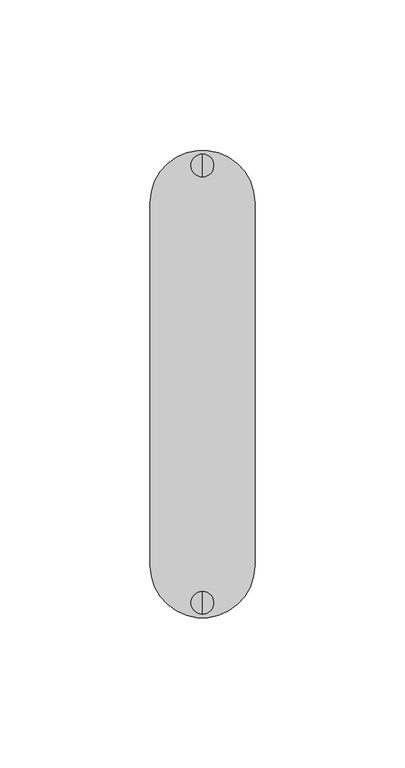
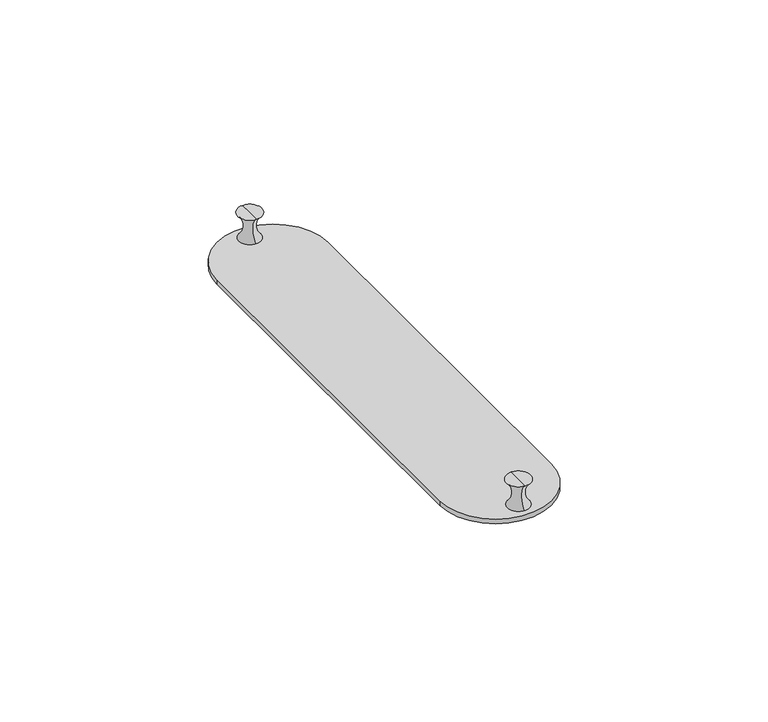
"""IFC4 building model written with IfcOpenShell, lengths in millimetres: electric appliance geometry, Adapter_Panel-Fiber-Corning-LANScape-CCH : 6 F, LC Duplex, multimode (OM1)."""

from ifc_helpers import new_model, si_unit, point, frame, frame_2d, origin, origin_with_axes, place, context, project, spatial, polyline, circle_curve, ellipse_curve, trimmed, segment, composite_curve, outline, extrude, source, transform, mapped, element, save
from ifc_brep_helpers import plane_surface, revolved_surface, advanced_brep


def electric_appliance_42aa6d9b(model_context):
    return source(origin(), model_context, "Body", "SolidModel", [
        extrude(outline(composite_curve([segment(polyline([(17.399, 60.325), (17.399, -60.325)]), True, "CONTINUOUS"), segment(trimmed(circle_curve(frame_2d((0.0, -60.325)), 17.399), [point((17.399, -60.325))], [point((-17.399, -60.325))], False, "CARTESIAN"), True, "CONTINUOUS"), segment(polyline([(-17.399, -60.325), (-17.399, 60.325)]), True, "CONTINUOUS"), segment(trimmed(circle_curve(frame_2d((0.0, 60.325)), 17.399), [point((-17.399, 60.325))], [point((17.399, 60.325))], False, "CARTESIAN"), True, "CONTINUOUS")], self_intersect=False)), origin_with_axes(), (0.0, 0.0, 1.0), 1.524),
        advanced_brep(
        [(0.0, 72.7075, 1.524), (0.0, 76.4763777, 1.524), (0.0, 68.9386223, 1.524), (0.0, 68.9386223, 10.1151821), (0.0, 76.4763777, 10.1151821), (0.0, 72.7075, 10.1151821)],
        [
            (0, 1),
            (1, 2, circle_curve(frame((0.0, 72.7075, 1.524), z_axis=(0.0, 0.0, -1.0), x_axis=(0.0, 1.0, 0.0)), 3.7688777)),
            (2, 0),
            (2, 1, circle_curve(frame((0.0, 72.7075, 1.524), z_axis=(0.0, 0.0, -1.0), x_axis=(0.0, 1.0, 0.0)), 3.7688777)),
            (3, 4, circle_curve(frame((0.0, 72.7075, 10.1151821), z_axis=(0.0, 0.0, 1.0), x_axis=(0.0, 1.0, 0.0)), 3.7688777)),
            (4, 5),
            (5, 3),
            (4, 3, circle_curve(frame((0.0, 72.7075, 10.1151821), z_axis=(0.0, 0.0, 1.0), x_axis=(0.0, 1.0, 0.0)), 3.7688777)),
            (1, 4, circle_curve(frame((0.0, 80.0729942, 5.8195911), z_axis=(-1.0, 0.0, 0.0), x_axis=(0.0, -1.0, 0.0)), 5.6024774)),
            (3, 2, circle_curve(frame((0.0, 65.3420058, 5.8195911), z_axis=(-1.0, 0.0, 0.0), x_axis=(0.0, 1.0, 0.0)), 5.6024774)),
        ],
        [
            plane_surface(frame((0.0, 72.7075, 1.524), z_axis=(0.0, 0.0, -1.0), x_axis=(0.0, 1.0, 0.0))),
            plane_surface(frame((0.0, 72.7075, 10.1151821), z_axis=(0.0, 0.0, 1.0), x_axis=(0.0, 1.0, 0.0))),
            revolved_surface(trimmed(ellipse_curve(frame((0.0, 80.0729942, 5.8195911), z_axis=(1.0, 0.0, 0.0), x_axis=(0.0, -1.0, 0.0)), 5.6024774, 5.6024774), [point((0.0, 76.4763777, 10.1151821))], [point((0.0, 76.4763777, 1.524))], True, "CARTESIAN"), (0.0, 72.7075, 11.5174488), (0.0, 0.0, -1.0)),
        ],
        [
            (0, [[1, 2, 3]]),
            (0, [[-3, 4, -1]]),
            (1, [[5, 6, 7]]),
            (1, [[8, -7, -6]]),
            (2, [[-2, 9, -5, 10]]),
            (2, [[-4, -10, -8, -9]]),
        ],
    ),
        advanced_brep(
        [(0.0, -72.7075, 1.524), (0.0, -68.9386223, 1.524), (0.0, -76.4763777, 1.524), (0.0, -76.4763777, 10.1151821), (0.0, -68.9386223, 10.1151821), (0.0, -72.7075, 10.1151821)],
        [
            (0, 1),
            (1, 2, circle_curve(frame((0.0, -72.7075, 1.524), z_axis=(0.0, 0.0, -1.0), x_axis=(0.0, 1.0, 0.0)), 3.7688777)),
            (2, 0),
            (2, 1, circle_curve(frame((0.0, -72.7075, 1.524), z_axis=(0.0, 0.0, -1.0), x_axis=(0.0, 1.0, 0.0)), 3.7688777)),
            (3, 4, circle_curve(frame((0.0, -72.7075, 10.1151821), z_axis=(0.0, 0.0, 1.0), x_axis=(0.0, 1.0, 0.0)), 3.7688777)),
            (4, 5),
            (5, 3),
            (4, 3, circle_curve(frame((0.0, -72.7075, 10.1151821), z_axis=(0.0, 0.0, 1.0), x_axis=(0.0, 1.0, 0.0)), 3.7688777)),
            (1, 4, circle_curve(frame((0.0, -65.3420058, 5.8195911), z_axis=(-1.0, 0.0, 0.0), x_axis=(0.0, -1.0, 0.0)), 5.6024774)),
            (3, 2, circle_curve(frame((0.0, -80.0729942, 5.8195911), z_axis=(-1.0, 0.0, 0.0), x_axis=(0.0, 1.0, 0.0)), 5.6024774)),
        ],
        [
            plane_surface(frame((0.0, -72.7075, 1.524), z_axis=(0.0, 0.0, -1.0), x_axis=(0.0, 1.0, 0.0))),
            plane_surface(frame((0.0, -72.7075, 10.1151821), z_axis=(0.0, 0.0, 1.0), x_axis=(0.0, 1.0, 0.0))),
            revolved_surface(trimmed(ellipse_curve(frame((0.0, -65.3420058, 5.8195911), z_axis=(1.0, 0.0, 0.0), x_axis=(0.0, -1.0, 0.0)), 5.6024774, 5.6024774), [point((0.0, -68.9386223, 10.1151821))], [point((0.0, -68.9386223, 1.524))], True, "CARTESIAN"), (0.0, -72.7075, 11.5174488), (0.0, 0.0, -1.0)),
        ],
        [
            (0, [[1, 2, 3]]),
            (0, [[-3, 4, -1]]),
            (1, [[5, 6, 7]]),
            (1, [[8, -7, -6]]),
            (2, [[-2, 9, -5, 10]]),
            (2, [[-4, -10, -8, -9]]),
        ],
    ),
    ])


if __name__ == "__main__":
    model = new_model("IFC4")
    model_context = context("Model", 3, world=origin())
    ifc_project = project(units=[si_unit("LENGTHUNIT", "METRE", prefix="MILLI")], contexts=[model_context])
    site = spatial("IfcSite", under=ifc_project)
    building = spatial("IfcBuilding", under=site)
    placement = place(None, origin())
    electric_appliance_shape = electric_appliance_42aa6d9b(model_context)
    element("IfcElectricAppliance", 1, ObjectType="Adapter_Panel-Fiber-Corning-LANScape-CCH : 6 F, LC Duplex, multimode (OM1)", at=placement, inside=building, context=model_context, shape_type="MappedRepresentation", body=[
        mapped(electric_appliance_shape, transform((0.0, 0.0, 0.0), x_axis=(1.0, 0.0, 0.0), y_axis=(0.0, 1.0, 0.0), z_axis=(0.0, 0.0, 1.0))),
    ])
    save(model, "model.ifc")
